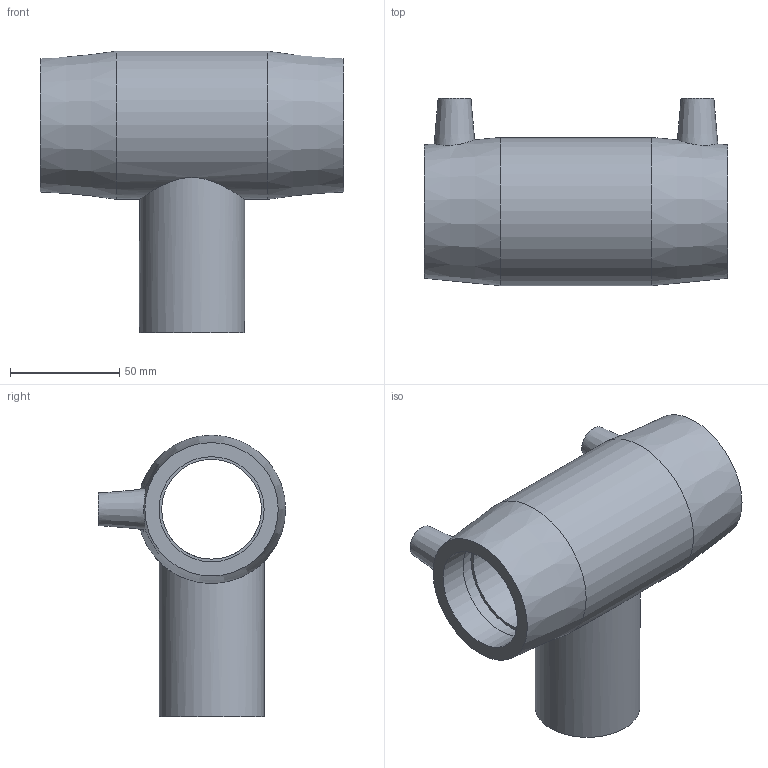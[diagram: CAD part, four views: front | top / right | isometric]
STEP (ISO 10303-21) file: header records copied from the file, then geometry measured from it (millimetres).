
FILE_DESCRIPTION(/* description */ ('PLASSON TEE 1 1/2''''IPS'),/* implementation_level */ '2;1');
FILE_NAME(/* name */ 'C:\Dropbox\KIMPROJECTS-Inventor 2019\99-16-3568-Processing Inch\ASTM ElectroFusion 2021\5904B\5904B003015.ipt.stp',/* time_stamp */ '2021-08-30T09:49:35+03:00',/* author */ ('KIM'),/* organization */ (''),/* preprocessor_version */ 'ST-DEVELOPER v17.2',/* originating_system */ 'Autodesk Inventor 2019',/* authorisation */ '');
FILE_SCHEMA (('AUTOMOTIVE_DESIGN { 1 0 10303 214 3 1 1 }'));
Length unit declared in the file: inch
Products named in the file (1): 5904B003015
Bounding box: 138.94 x 85.72 x 128.91 mm (x, y, z)
Volume: 268087.3 mm3; surface area: 71793.9 mm2
Topology: 1 solids, 1 shells, 31 faces, 70 edges, 52 vertices
Faces by surface type: plane 13, cylinder 12, cone 6
Full cylindrical faces by diameter (mm): 4.8 x2, 9.6 x2, 38.48 x1, 45.695 x1, 48.1 x5, 67.818 x1
Entity records: 1151 total; most frequent: CARTESIAN_POINT 354, DIRECTION 170, ORIENTED_EDGE 140, AXIS2_PLACEMENT_3D 76, EDGE_CURVE 70, VERTEX_POINT 52, EDGE_LOOP 46, CIRCLE 44
